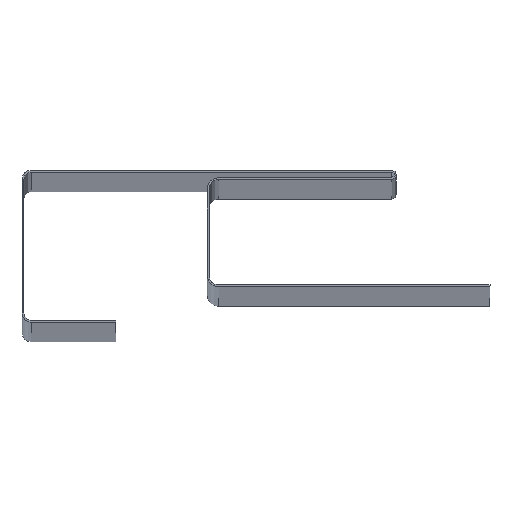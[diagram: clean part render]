
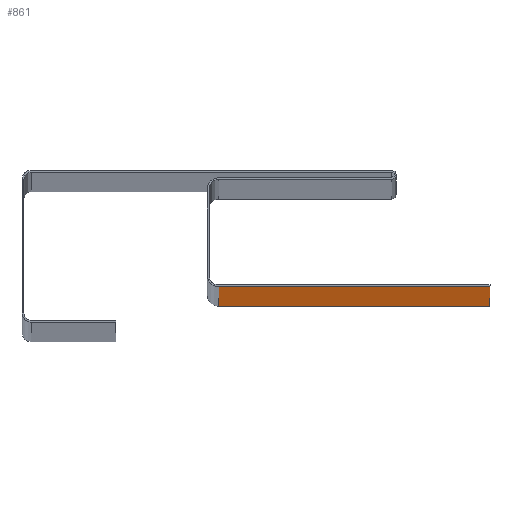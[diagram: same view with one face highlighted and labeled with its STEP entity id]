
A CAD part, top view. The second image highlights one B-rep face of the part: STEP entity #861.
In plain terms, the highlighted planar face has unit normal (0, -1, 0).
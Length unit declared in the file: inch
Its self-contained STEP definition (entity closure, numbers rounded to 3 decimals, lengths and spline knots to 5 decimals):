
#45 = ORIENTED_EDGE ( 'NONE', *, *, #931, .T. ) ;
#54 = VECTOR ( 'NONE', #731, 39.37008 ) ;
#86 = CARTESIAN_POINT ( 'NONE',  ( 5., -1.245, 120. ) ) ;
#97 = LINE ( 'NONE', #125, #460 ) ;
#125 = CARTESIAN_POINT ( 'NONE',  ( 2.1, -1.245, 120. ) ) ;
#130 = LINE ( 'NONE', #568, #836 ) ;
#138 = VECTOR ( 'NONE', #479, 39.37008 ) ;
#143 = CARTESIAN_POINT ( 'NONE',  ( 5., -1.245, 120. ) ) ;
#147 = VERTEX_POINT ( 'NONE', #280 ) ;
#162 = EDGE_CURVE ( 'NONE', #629, #882, #130, .T. ) ;
#280 = CARTESIAN_POINT ( 'NONE',  ( 2.1, -1.245, 120. ) ) ;
#281 = VERTEX_POINT ( 'NONE', #86 ) ;
#319 = CARTESIAN_POINT ( 'NONE',  ( 2.1, -1.245, 120. ) ) ;
#418 = ORIENTED_EDGE ( 'NONE', *, *, #737, .F. ) ;
#439 = CARTESIAN_POINT ( 'NONE',  ( 2.1, -1.245, 0. ) ) ;
#460 = VECTOR ( 'NONE', #769, 39.37008 ) ;
#479 = DIRECTION ( 'NONE',  ( 1., 0., 0. ) ) ;
#489 = LINE ( 'NONE', #143, #54 ) ;
#528 = FACE_OUTER_BOUND ( 'NONE', #821, .T. ) ;
#568 = CARTESIAN_POINT ( 'NONE',  ( 2.1, -1.245, 0. ) ) ;
#594 = EDGE_CURVE ( 'NONE', #281, #882, #489, .T. ) ;
#629 = VERTEX_POINT ( 'NONE', #439 ) ;
#675 = CARTESIAN_POINT ( 'NONE',  ( 5., -1.245, 0. ) ) ;
#677 = ORIENTED_EDGE ( 'NONE', *, *, #594, .F. ) ;
#731 = DIRECTION ( 'NONE',  ( 0., 0., -1. ) ) ;
#737 = EDGE_CURVE ( 'NONE', #147, #281, #774, .T. ) ;
#769 = DIRECTION ( 'NONE',  ( 0., 0., -1. ) ) ;
#774 = LINE ( 'NONE', #319, #138 ) ;
#817 = CARTESIAN_POINT ( 'NONE',  ( 2.1, -1.245, 120. ) ) ;
#821 = EDGE_LOOP ( 'NONE', ( #892, #677, #418, #45 ) ) ;
#835 = DIRECTION ( 'NONE',  ( 0., 1., 0. ) ) ;
#836 = VECTOR ( 'NONE', #937, 39.37008 ) ;
#861 = ADVANCED_FACE ( 'NONE', ( #528 ), #948, .F. ) ;
#882 = VERTEX_POINT ( 'NONE', #675 ) ;
#891 = DIRECTION ( 'NONE',  ( 0., 0., 1. ) ) ;
#892 = ORIENTED_EDGE ( 'NONE', *, *, #162, .T. ) ;
#931 = EDGE_CURVE ( 'NONE', #147, #629, #97, .T. ) ;
#937 = DIRECTION ( 'NONE',  ( 1., 0., 0. ) ) ;
#948 = PLANE ( 'NONE',  #950 ) ;
#950 = AXIS2_PLACEMENT_3D ( 'NONE', #817, #835, #891 ) ;
